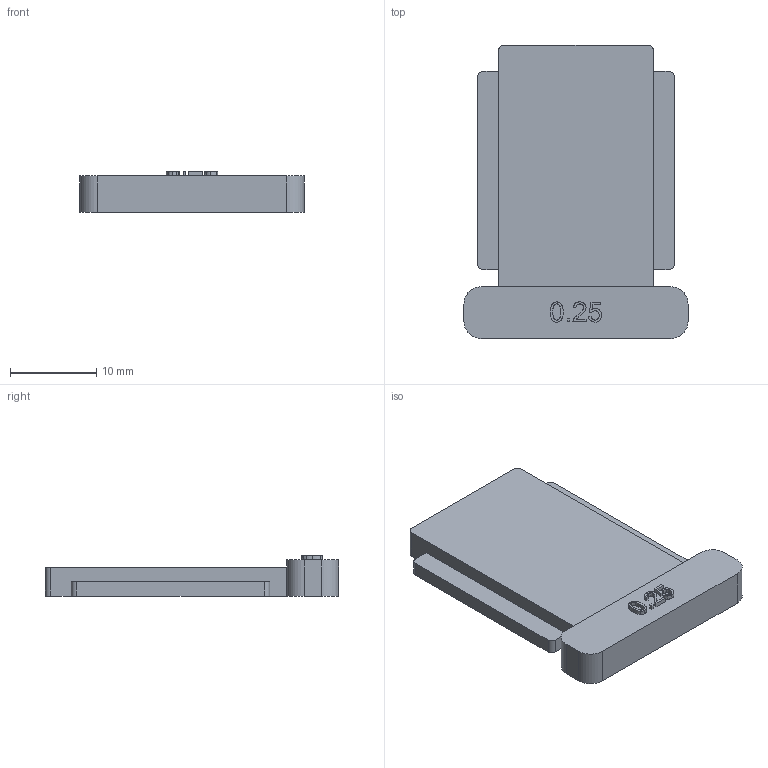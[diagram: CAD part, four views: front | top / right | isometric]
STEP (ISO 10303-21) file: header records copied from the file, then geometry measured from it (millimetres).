
FILE_DESCRIPTION(('Open CASCADE Model'),'2;1');
FILE_NAME('Open CASCADE Shape Model','1970-01-01T00:00:00',('Author'),( 'Open CASCADE'),'Open CASCADE STEP processor 7.8','Open CASCADE 7.8' ,'Unknown');
FILE_SCHEMA(('AUTOMOTIVE_DESIGN { 1 0 10303 214 1 1 1 1 }'));
Length unit declared in the file: millimetre
Products named in the file (2): Open CASCADE STEP translator 7.8 5; S25 sliding tongue
Assembly tree (1 placements, depth 2):
  Open CASCADE STEP translator 7.8 5
    S25 sliding tongue
Bounding box: 26 x 34 x 4.68 mm (x, y, z)
Volume: 2520.8 mm3; surface area: 2004.7 mm2
Topology: 1 solids, 1 shells, 101 faces, 282 edges, 188 vertices
Faces by surface type: extrusion 53, plane 38, cylinder 10
Entity records: 7911 total; most frequent: CARTESIAN_POINT 2787, DIRECTION 702, ORIENTED_EDGE 564, PCURVE 564, DEFINITIONAL_REPRESENTATION 564, VECTOR 546, LINE 493, B_SPLINE_CURVE_WITH_KNOTS 366
